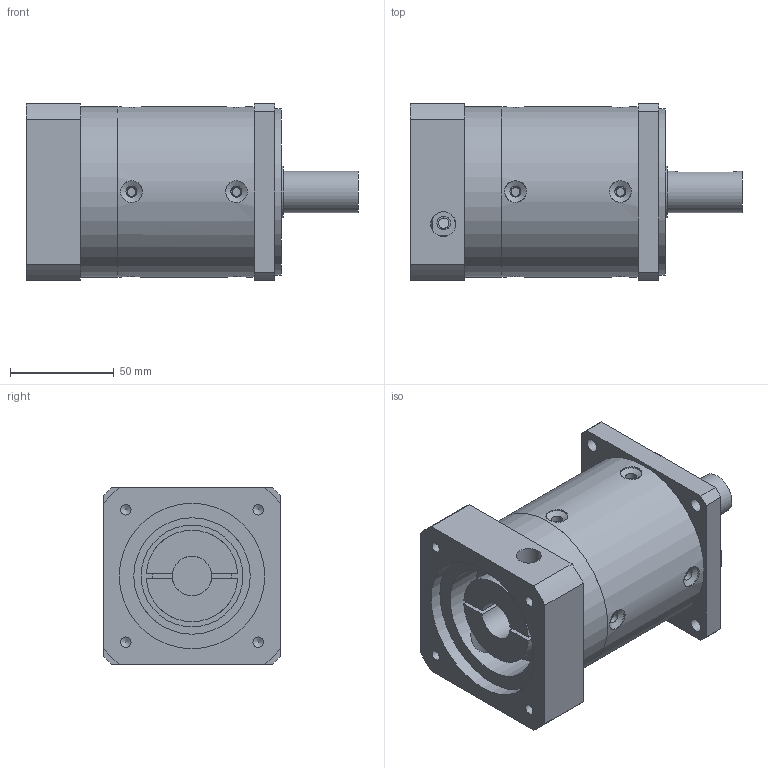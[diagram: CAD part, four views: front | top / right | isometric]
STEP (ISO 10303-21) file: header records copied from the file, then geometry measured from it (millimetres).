
FILE_DESCRIPTION(/* description */ (''),/* implementation_level */ '2;1');
FILE_NAME(/* name */ 'PLF80-L2 19-70-90-M6.stp',/* time_stamp */ '2020-09-11T15:53:40+08:00',/* author */ (''),/* organization */ (''),/* preprocessor_version */ 'ST-DEVELOPER v16.7',/* originating_system */ 'SIEMENS PLM Software NX 12.0',/* authorisation */ '');
FILE_SCHEMA (('AP203_CONFIGURATION_CONTROLLED_3D_DESIGN_OF_MECHANICAL_PARTS_AND_ASSEMBLIES_MIM_LF { 1 0 10303 403 2 1 2}'));
Length unit declared in the file: millimetre
Products named in the file (1): Admi6E8CBE73gyso
Bounding box: 159.75 x 85 x 85 mm (x, y, z)
Volume: 642869.7 mm3; surface area: 98484 mm2
Topology: 2 solids, 5 shells, 153 faces, 363 edges, 247 vertices
Faces by surface type: cylinder 89, plane 51, cone 13
Full cylindrical faces by diameter (mm): 4.2 x8, 5 x6, 5.3 x8, 6.5 x6, 6.8 x1, 10.5 x8, 12 x2, 19 x1, 20 x2, 25 x1, 28 x1, 38 x1, 47 x1, 49 x1, 50 x1, 55.15 x2, 56 x1, 58 x1, 66.4 x2, 70 x1, 72 x3, 80 x1, 82 x2
Entity records: 5466 total; most frequent: CARTESIAN_POINT 2322, DIRECTION 624, ORIENTED_EDGE 470, EDGE_LOOP 292, AXIS2_PLACEMENT_3D 275, FACE_BOUND 255, EDGE_CURVE 235, VERTEX_POINT 202
